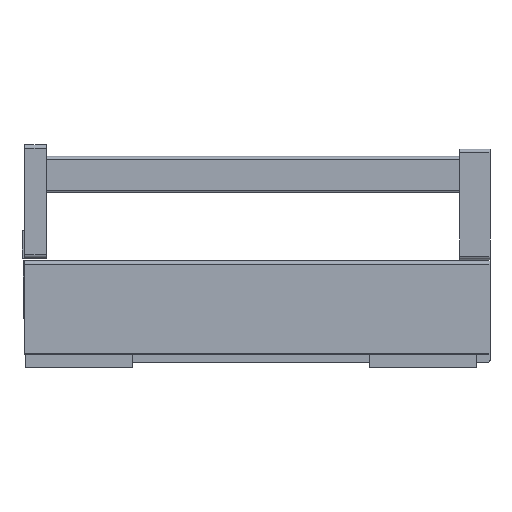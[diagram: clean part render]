
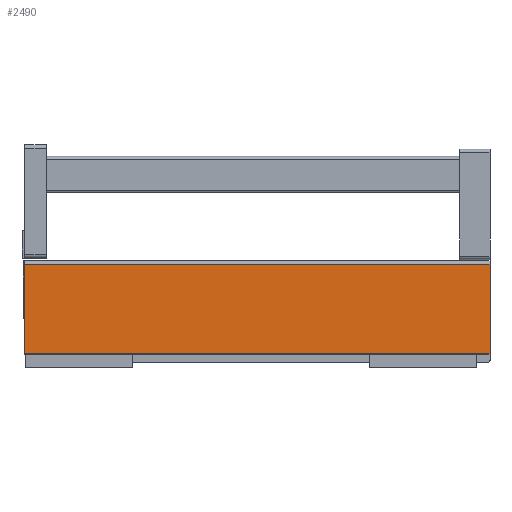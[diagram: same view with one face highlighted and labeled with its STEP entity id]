
A CAD part, left-side view. The second image highlights one B-rep face of the part: STEP entity #2490.
In plain terms, the highlighted planar face has unit normal (-1, 0, 0).
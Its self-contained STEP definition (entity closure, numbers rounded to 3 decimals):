
#120 = VECTOR ( 'NONE', #3100, 1000. ) ;
#138 = LINE ( 'NONE', #3099, #120 ) ;
#308 = FACE_OUTER_BOUND ( 'NONE', #1036, .T. ) ;
#651 = VECTOR ( 'NONE', #3729, 1000. ) ;
#667 = LINE ( 'NONE', #3726, #651 ) ;
#878 = LINE ( 'NONE', #3446, #887 ) ;
#887 = VECTOR ( 'NONE', #3452, 1000. ) ;
#895 = VECTOR ( 'NONE', #3429, 1000. ) ;
#900 = LINE ( 'NONE', #3426, #895 ) ;
#1036 = EDGE_LOOP ( 'NONE', ( #1609, #1610, #1611, #1612 ) ) ;
#1609 = ORIENTED_EDGE ( 'NONE', *, *, #1948, .F. ) ;
#1610 = ORIENTED_EDGE ( 'NONE', *, *, #2173, .F. ) ;
#1611 = ORIENTED_EDGE ( 'NONE', *, *, #1963, .T. ) ;
#1612 = ORIENTED_EDGE ( 'NONE', *, *, #4474, .T. ) ;
#1866 = VERTEX_POINT ( 'NONE', #3334 ) ;
#1871 = VERTEX_POINT ( 'NONE', #3339 ) ;
#1903 = VERTEX_POINT ( 'NONE', #3371 ) ;
#1904 = VERTEX_POINT ( 'NONE', #3372 ) ;
#1948 = EDGE_CURVE ( 'NONE', #1904, #1903, #900, .T. ) ;
#1963 = EDGE_CURVE ( 'NONE', #1866, #1871, #878, .T. ) ;
#1966 = AXIS2_PLACEMENT_3D ( 'NONE', #4195, #4198, #4199 ) ;
#2173 = EDGE_CURVE ( 'NONE', #1866, #1904, #667, .T. ) ;
#2490 = ADVANCED_FACE ( 'NONE', ( #308 ), #4196, .F. ) ;
#3099 = CARTESIAN_POINT ( 'NONE',  ( -4.1, 390., -28.503 ) ) ;
#3100 = DIRECTION ( 'NONE',  ( 0., -1., 0. ) ) ;
#3334 = CARTESIAN_POINT ( 'NONE',  ( -4.1, 390., 46.498 ) ) ;
#3339 = CARTESIAN_POINT ( 'NONE',  ( -4.1, 390., -28.503 ) ) ;
#3371 = CARTESIAN_POINT ( 'NONE',  ( -4.1, 0., -28.503 ) ) ;
#3372 = CARTESIAN_POINT ( 'NONE',  ( -4.1, 0., 46.498 ) ) ;
#3426 = CARTESIAN_POINT ( 'NONE',  ( -4.1, 0., -28.503 ) ) ;
#3429 = DIRECTION ( 'NONE',  ( 0., 0., -1. ) ) ;
#3446 = CARTESIAN_POINT ( 'NONE',  ( -4.1, 390., -7.702 ) ) ;
#3452 = DIRECTION ( 'NONE',  ( 0., 0., -1. ) ) ;
#3726 = CARTESIAN_POINT ( 'NONE',  ( -4.1, 390., 46.498 ) ) ;
#3729 = DIRECTION ( 'NONE',  ( 0., -1., 0. ) ) ;
#4195 = CARTESIAN_POINT ( 'NONE',  ( -4.1, 390., -28.503 ) ) ;
#4196 = PLANE ( 'NONE',  #1966 ) ;
#4198 = DIRECTION ( 'NONE',  ( 1., 0., 0. ) ) ;
#4199 = DIRECTION ( 'NONE',  ( 0., 0., -1. ) ) ;
#4474 = EDGE_CURVE ( 'NONE', #1871, #1903, #138, .T. ) ;
